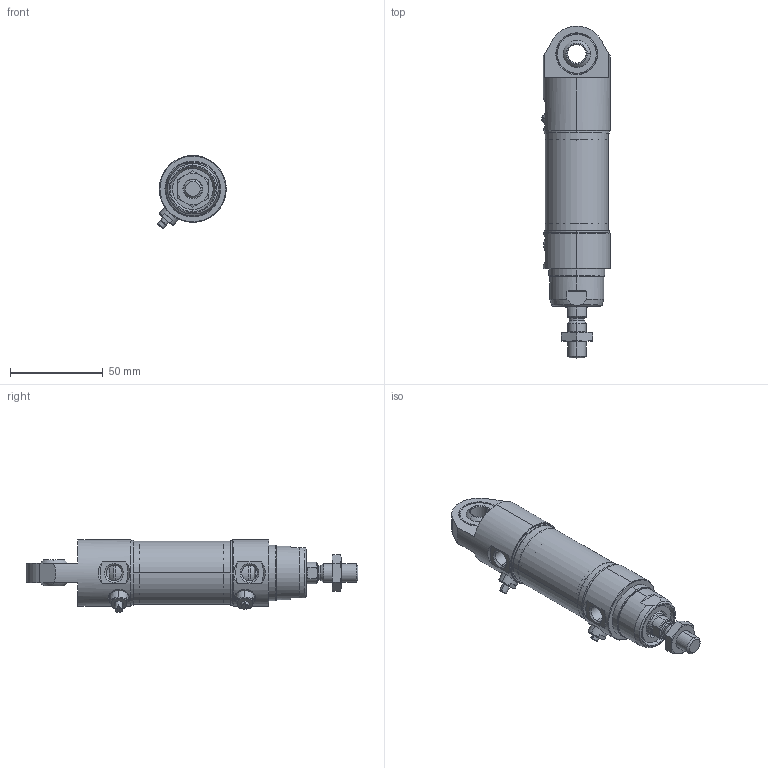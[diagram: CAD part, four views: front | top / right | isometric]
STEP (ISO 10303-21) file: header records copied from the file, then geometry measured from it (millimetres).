
FILE_DESCRIPTION(('STEP AP203'),'1');
FILE_NAME('86M32F0000 - course 0mm.stp','2022-06-09T07:20:50',(' '),(' '),'Spatial InterOp 3D',' ',' ');
FILE_SCHEMA(('CONFIG_CONTROL_DESIGN'));
Length unit declared in the file: metre
Products named in the file (30): 886128_oa_1; 885999_oa_2; 885327_oa_3; 881931 - 12-16-15; 881792 - O-Ring 2.5x1.5 NBR; 885996; 880270 - 28,3x1,78 NBR_oa_5; 886139; 880160 - 7x1; 885997; 881831 EU32; 880715 20.35x1.78_oa_6; 885998; 86M32F0000 - course 0mm; 078461_oa_7; 881273_oa_8; 881273_oa_9; 881217 - Z8 32 PUR_oa_10; 881217 - Z8 32 PUR_oa_11; 881106_oa_14; 886495S_oa_20; 886495_oa_21; 886498 - Snodo 10-22-DIN ISO 12240; 886496_oa_18; 885327_oa_19; 880160 - 7x1-0; 880270 - 28,3x1,78 NBR_oa_23; 000667_oa_0; 041461 - Dado basso M10x1.25 INOX; 000411_oa_24
Assembly tree (33 placements, depth 4):
  86M32F0000 - course 0mm
    886128_oa_1
      885999_oa_2
      885327_oa_3
      881931 - 12-16-15
      881792 - O-Ring 2.5x1.5 NBR
      885996
      880270 - 28,3x1,78 NBR_oa_5
      886139
      880160 - 7x1
      885997
      881831 EU32
      880715 20.35x1.78_oa_6
      885998
    078461_oa_7
      881273_oa_8
      881273_oa_9
      881217 - Z8 32 PUR_oa_10
      881217 - Z8 32 PUR_oa_11
      881106_oa_14
    886496_oa_18
      886495S_oa_20
        886495_oa_21
        886498 - Snodo 10-22-DIN ISO 12240
      885327_oa_19
      885996
      880160 - 7x1-0
      885997
      881792 - O-Ring 2.5x1.5 NBR
      880270 - 28,3x1,78 NBR_oa_23
      885998
    000667_oa_0
    041461 - Dado basso M10x1.25 INOX
    000411_oa_24
Bounding box: 36.85 x 179 x 39.29 mm (x, y, z)
Volume: 74559.3 mm3; surface area: 50342.2 mm2
Topology: 33 solids, 33 shells, 606 faces, 1334 edges, 807 vertices
Faces by surface type: cone 209, cylinder 195, plane 136, torus 54, bspline 8, sphere 4
Entity records: 17421 total; most frequent: CARTESIAN_POINT 3740, DIRECTION 2843, ORIENTED_EDGE 2344, AXIS2_PLACEMENT_3D 1210, EDGE_CURVE 1172, VERTEX_POINT 709, CIRCLE 639, EDGE_LOOP 609
